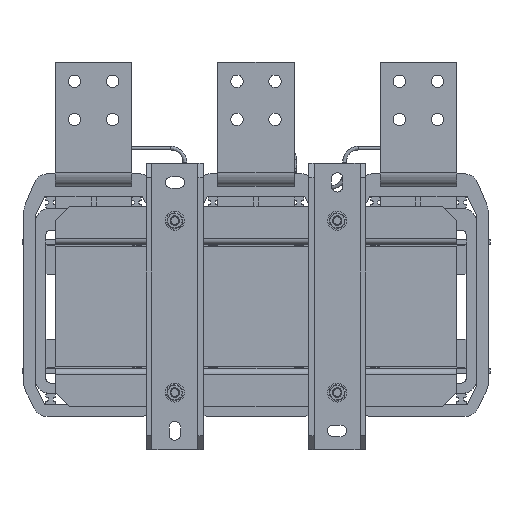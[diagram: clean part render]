
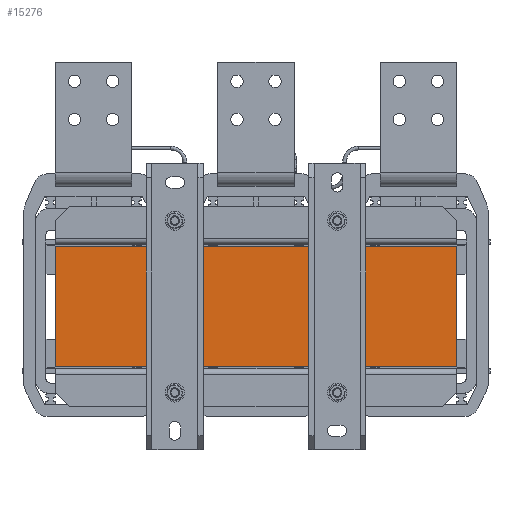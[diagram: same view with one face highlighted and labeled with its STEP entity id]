
A CAD part, front view. The second image highlights one B-rep face of the part: STEP entity #15276.
In plain terms, the highlighted planar face has unit normal (0, -1, 0).
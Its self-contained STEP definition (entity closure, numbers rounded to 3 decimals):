
#770 = EDGE_LOOP ( 'NONE', ( #7099, #14957, #3405, #35221 ) ) ;
#2544 = DIRECTION ( 'NONE',  ( 0., 1., 0. ) ) ;
#3215 = DIRECTION ( 'NONE',  ( -1., 0., 0. ) ) ;
#3405 = ORIENTED_EDGE ( 'NONE', *, *, #51273, .F. ) ;
#4920 = CARTESIAN_POINT ( 'NONE',  ( 210., -220., 126. ) ) ;
#5322 = CARTESIAN_POINT ( 'NONE',  ( -210., -220., 0. ) ) ;
#5702 = CARTESIAN_POINT ( 'NONE',  ( 210., -220., 126. ) ) ;
#7099 = ORIENTED_EDGE ( 'NONE', *, *, #48335, .F. ) ;
#12311 = DIRECTION ( 'NONE',  ( 0., 0., 1. ) ) ;
#12355 = VERTEX_POINT ( 'NONE', #5322 ) ;
#14957 = ORIENTED_EDGE ( 'NONE', *, *, #56762, .F. ) ;
#15276 = ADVANCED_FACE ( 'NONE', ( #31767 ), #22041, .F. ) ;
#15452 = LINE ( 'NONE', #5702, #46504 ) ;
#17806 = CARTESIAN_POINT ( 'NONE',  ( -210., -220., 0. ) ) ;
#18198 = EDGE_CURVE ( 'NONE', #53243, #12355, #57934, .T. ) ;
#21552 = DIRECTION ( 'NONE',  ( 1., 0., 0. ) ) ;
#22041 = PLANE ( 'NONE',  #54268 ) ;
#25544 = DIRECTION ( 'NONE',  ( 0., 0., -1. ) ) ;
#30454 = VECTOR ( 'NONE', #60437, 1000. ) ;
#30708 = CARTESIAN_POINT ( 'NONE',  ( -210., -220., 126. ) ) ;
#31333 = LINE ( 'NONE', #30708, #30454 ) ;
#31767 = FACE_OUTER_BOUND ( 'NONE', #770, .T. ) ;
#32723 = VECTOR ( 'NONE', #21552, 1000. ) ;
#35221 = ORIENTED_EDGE ( 'NONE', *, *, #18198, .F. ) ;
#35529 = VERTEX_POINT ( 'NONE', #4920 ) ;
#35841 = LINE ( 'NONE', #51192, #32723 ) ;
#40164 = CARTESIAN_POINT ( 'NONE',  ( 210., -220., 0. ) ) ;
#46504 = VECTOR ( 'NONE', #25544, 1000. ) ;
#48335 = EDGE_CURVE ( 'NONE', #35529, #53243, #15452, .T. ) ;
#51192 = CARTESIAN_POINT ( 'NONE',  ( 0., -220., 126. ) ) ;
#51273 = EDGE_CURVE ( 'NONE', #12355, #58579, #31333, .T. ) ;
#51727 = VECTOR ( 'NONE', #3215, 1000. ) ;
#52603 = CARTESIAN_POINT ( 'NONE',  ( -210., -220., 126. ) ) ;
#53243 = VERTEX_POINT ( 'NONE', #40164 ) ;
#54268 = AXIS2_PLACEMENT_3D ( 'NONE', #61802, #2544, #12311 ) ;
#56762 = EDGE_CURVE ( 'NONE', #58579, #35529, #35841, .T. ) ;
#57934 = LINE ( 'NONE', #17806, #51727 ) ;
#58579 = VERTEX_POINT ( 'NONE', #52603 ) ;
#60437 = DIRECTION ( 'NONE',  ( 0., 0., 1. ) ) ;
#61802 = CARTESIAN_POINT ( 'NONE',  ( -210., -220., 126. ) ) ;
